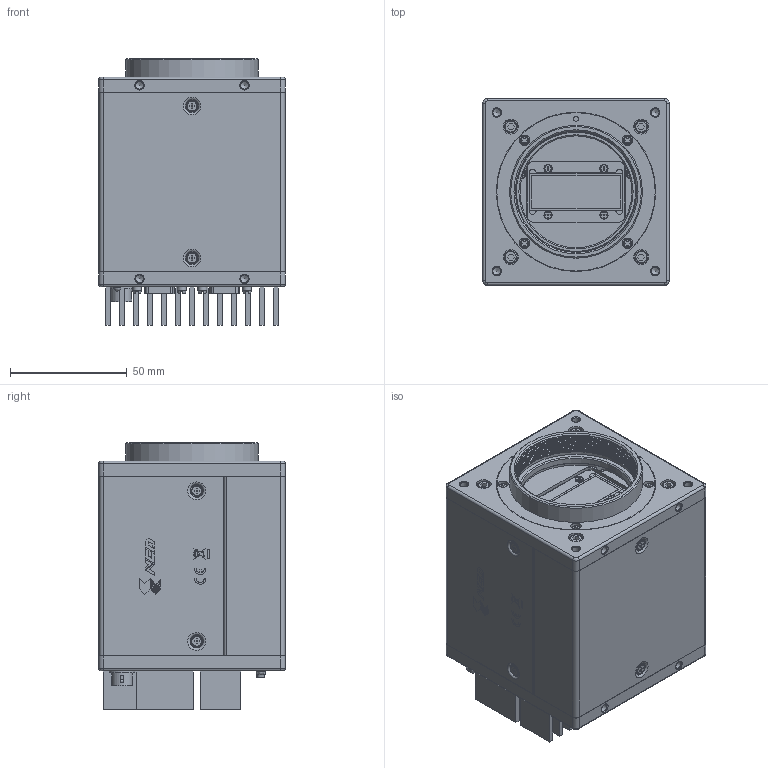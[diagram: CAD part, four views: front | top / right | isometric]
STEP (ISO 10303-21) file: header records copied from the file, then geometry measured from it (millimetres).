
FILE_DESCRIPTION (( 'STEP AP203' ), '1' );
FILE_NAME ('C7-1014-00-50乛RC3C4K35CL僇儊儔奜宍恾.STEP', '2025-05-23T05:32:36', ( '' ), ( '' ), 'SwSTEP 2.0', 'SolidWorks 2023', '' );
FILE_SCHEMA (( 'CONFIG_CONTROL_DESIGN' ));
Products named in the file (1): C7-1014-00-50／RC3C4K35CLカメラ外形図
Bounding box: 80 x 80 x 114.5 mm (x, y, z)
Volume: 577949.1 mm3; surface area: 83233.2 mm2
Topology: 2 solids, 51 shells, 5266 faces, 13841 edges, 9193 vertices
Faces by surface type: plane 3179, bspline 1673, cylinder 279, cone 78, torus 56, sphere 1
Full cylindrical faces by diameter (mm): 0.25 x1, 0.5 x6, 0.8 x2, 1.6 x4, 2 x13, 2.2 x4, 2.3 x4, 2.6 x12, 2.7 x8, 3 x5, 3.2 x4, 3.3 x12, 3.5 x4, 3.6 x4, 3.8 x8, 4.5 x16, 5.1 x4, 5.2 x1, 5.5 x4, 5.7 x1, 6 x8, 6.4 x4, 8.85 x1, 11 x1, 48 x1, 52.5 x1, 57 x1, 68 x2, 68.4 x1, 69 x1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
Entity records: 240733 total; most frequent: CARTESIAN_POINT 123089, ORIENTED_EDGE 26978, DIRECTION 17972, EDGE_CURVE 13489, LINE 9358, VECTOR 9358, VERTEX_POINT 9095, EDGE_LOOP 6128
